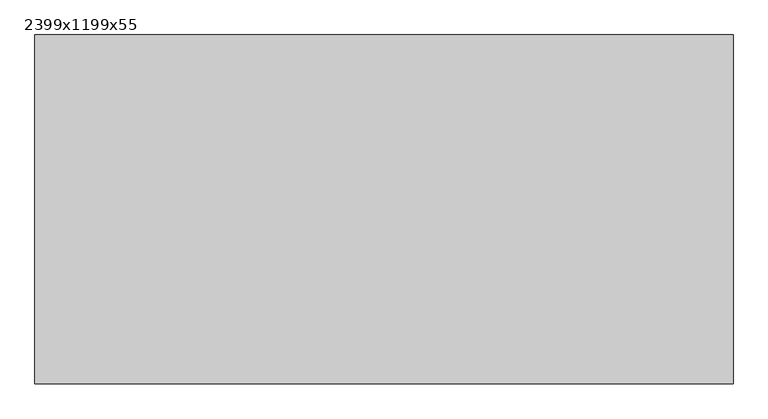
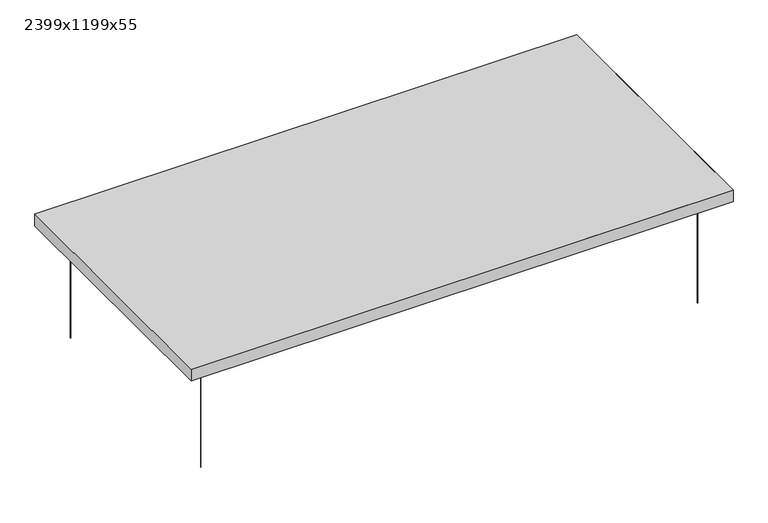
"""IFC4 building model written with IfcOpenShell, lengths in millimetres: proxy geometry, Texaa_Plafond respirant_Strato_Panneaux absorbant : 2399x1199x55."""

from ifc_helpers import new_model, si_unit, point, frame, frame_2d, origin, origin_with_axes, place, context, project, spatial, polyline, circle_curve, trimmed, segment, composite_curve, outline, extrude, faceted_brep, source, transform, mapped, element, save


def proxy_2399x1199x55_094451d5(model_context):
    return source(origin(), model_context, "Body", "SolidModel", [
        extrude(outline(composite_curve([segment(trimmed(circle_curve(frame_2d((-1099.5, -499.5)), 0.75), [point((-1100.25, -499.5))], [point((-1098.75, -499.5))], False, "CARTESIAN"), True, "CONTINUOUS"), segment(trimmed(circle_curve(frame_2d((-1099.5, -499.5)), 0.75), [point((-1098.75, -499.5))], [point((-1100.25, -499.5))], False, "CARTESIAN"), True, "CONTINUOUS")], self_intersect=False)), origin_with_axes(), (0.0, 0.0, 1.0), 500.0),
        extrude(outline(composite_curve([segment(trimmed(circle_curve(frame_2d((1099.5, -499.5)), 0.75), [point((1098.75, -499.5))], [point((1100.25, -499.5))], False, "CARTESIAN"), True, "CONTINUOUS"), segment(trimmed(circle_curve(frame_2d((1099.5, -499.5)), 0.75), [point((1100.25, -499.5))], [point((1098.75, -499.5))], False, "CARTESIAN"), True, "CONTINUOUS")], self_intersect=False)), origin_with_axes(), (0.0, 0.0, 1.0), 500.0),
        extrude(outline(composite_curve([segment(trimmed(circle_curve(frame_2d((1099.5, 499.5)), 0.75), [point((1098.75, 499.5))], [point((1100.25, 499.5))], False, "CARTESIAN"), True, "CONTINUOUS"), segment(trimmed(circle_curve(frame_2d((1099.5, 499.5)), 0.75), [point((1100.25, 499.5))], [point((1098.75, 499.5))], False, "CARTESIAN"), True, "CONTINUOUS")], self_intersect=False)), origin_with_axes(), (0.0, 0.0, 1.0), 500.0),
        extrude(outline(composite_curve([segment(trimmed(circle_curve(frame_2d((-1099.5, 499.5)), 0.75), [point((-1100.25, 499.5))], [point((-1098.75, 499.5))], False, "CARTESIAN"), True, "CONTINUOUS"), segment(trimmed(circle_curve(frame_2d((-1099.5, 499.5)), 0.75), [point((-1098.75, 499.5))], [point((-1100.25, 499.5))], False, "CARTESIAN"), True, "CONTINUOUS")], self_intersect=False)), origin_with_axes(), (0.0, 0.0, 1.0), 500.0),
        extrude(outline(polyline([(-1198.5, -598.5), (-1198.5, 598.5), (1198.5, 598.5), (1198.5, -598.5), (-1198.5, -598.5)])), frame((0.0, 0.0, 501.0), z_axis=(0.0, 0.0, 1.0), x_axis=(1.0, 0.0, 0.0)), (0.0, 0.0, 1.0), 53.0),
        faceted_brep([(-1199.5, -599.5, 555.0), (1199.5, -599.5, 555.0), (1199.5, 599.5, 555.0), (-1199.5, 599.5, 555.0), (-1199.5, -599.5, 500.0), (-1199.5, 599.5, 500.0), (1199.5, 599.5, 500.0), (1199.5, -599.5, 500.0), (-1149.5, 549.5, 500.0), (-1149.5, -549.5, 500.0), (1149.5, -549.5, 500.0), (1149.5, 549.5, 500.0), (1149.5, 549.5, 501.0), (-1149.5, 549.5, 501.0), (1149.5, -549.5, 501.0), (-1149.5, -549.5, 501.0), (-1198.5, -598.5, 554.0), (-1198.5, 598.5, 554.0), (1198.5, 598.5, 554.0), (1198.5, -598.5, 554.0), (-1198.5, -598.5, 501.0), (1198.5, -598.5, 501.0), (1198.5, 598.5, 501.0), (-1198.5, 598.5, 501.0)], [[[0, 1, 2, 3]], [[4, 5, 6, 7], [8, 9, 10, 11]], [[3, 5, 4, 0]], [[2, 6, 5, 3]], [[1, 7, 6, 2]], [[0, 4, 7, 1]], [[8, 11, 12, 13]], [[11, 10, 14, 12]], [[10, 9, 15, 14]], [[13, 15, 9, 8]], [[16, 17, 18, 19]], [[20, 21, 22, 23], [12, 14, 15, 13]], [[16, 20, 23, 17]], [[17, 23, 22, 18]], [[18, 22, 21, 19]], [[19, 21, 20, 16]]]),
    ])


if __name__ == "__main__":
    model = new_model("IFC4")
    model_context = context("Model", 3, world=origin())
    ifc_project = project(units=[si_unit("LENGTHUNIT", "METRE", prefix="MILLI")], contexts=[model_context])
    site = spatial("IfcSite", under=ifc_project)
    building = spatial("IfcBuilding", under=site)
    placement = place(None, origin())
    proxy_2399x1199x55_shape = proxy_2399x1199x55_094451d5(model_context)
    element("IfcBuildingElementProxy", 1, Name="Texaa_Plafond respirant_Strato_Panneaux absorbant : 2399x1199x55", ObjectType="Texaa_Plafond respirant_Strato_Panneaux absorbant : 2399x1199x55", at=placement, inside=building, context=model_context, shape_type="MappedRepresentation", body=[
        mapped(proxy_2399x1199x55_shape, transform((0.0, 0.0, 0.0), x_axis=(1.0, 0.0, 0.0), y_axis=(0.0, 1.0, 0.0), z_axis=(0.0, 0.0, 1.0))),
    ])
    save(model, "model.ifc")
